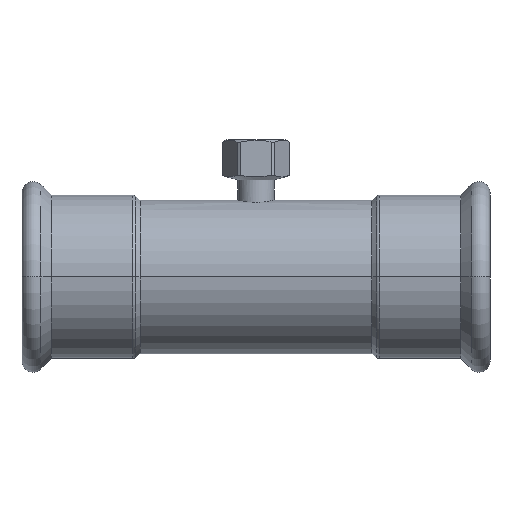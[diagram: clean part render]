
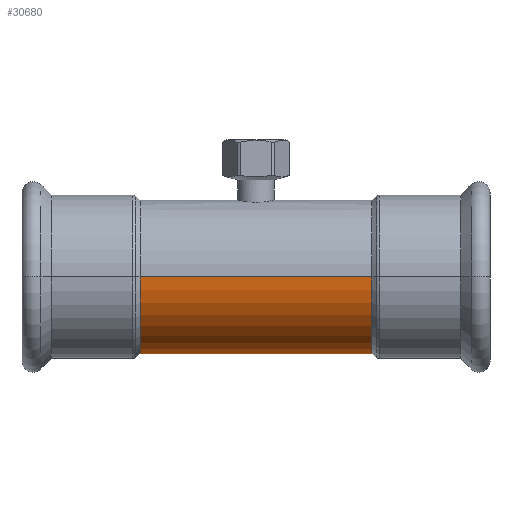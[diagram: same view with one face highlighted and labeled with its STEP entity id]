
A CAD part, front view. The second image highlights one B-rep face of the part: STEP entity #30680.
In plain terms, the highlighted cylindrical face has radius 38.05 mm (diameter 76.1 mm), a partial arc.
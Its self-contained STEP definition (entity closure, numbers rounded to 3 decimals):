
#7960=CARTESIAN_POINT('',(-38.693,90.409,0.));
#7970=DIRECTION('',(1.,0.,0.));
#7980=DIRECTION('',(0.,0.,1.));
#7990=AXIS2_PLACEMENT_3D('',#7960,#7970,#7980);
#8000=CYLINDRICAL_SURFACE('',#7990,38.05);
#30320=CARTESIAN_POINT('',(-38.693,90.409,-38.05));
#30330=DIRECTION('',(1.,0.,0.));
#30340=VECTOR('',#30330,1.);
#30350=LINE('',#30320,#30340);
#30360=CARTESIAN_POINT('',(-153.693,90.409,-38.05));
#30370=VERTEX_POINT('',#30360);
#30380=CARTESIAN_POINT('',(-38.693,90.409,-38.05));
#30390=VERTEX_POINT('',#30380);
#30400=EDGE_CURVE('',#30370,#30390,#30350,.T.);
#30410=ORIENTED_EDGE('',*,*,#30400,.F.);
#30420=CARTESIAN_POINT('',(-38.693,90.409,0.));
#30430=DIRECTION('',(1.,0.,0.));
#30440=DIRECTION('',(0.,0.,1.));
#30450=AXIS2_PLACEMENT_3D('',#30420,#30430,#30440);
#30460=CIRCLE('',#30450,38.05);
#30470=CARTESIAN_POINT('',(-38.693,90.409,38.05));
#30480=VERTEX_POINT('',#30470);
#30490=EDGE_CURVE('',#30390,#30480,#30460,.T.);
#30500=ORIENTED_EDGE('',*,*,#30490,.F.);
#30510=CARTESIAN_POINT('',(-38.693,90.409,38.05));
#30520=DIRECTION('',(1.,0.,0.));
#30530=VECTOR('',#30520,1.);
#30540=LINE('',#30510,#30530);
#30550=CARTESIAN_POINT('',(-153.693,90.409,38.05));
#30560=VERTEX_POINT('',#30550);
#30570=EDGE_CURVE('',#30560,#30480,#30540,.T.);
#30580=ORIENTED_EDGE('',*,*,#30570,.T.);
#30590=CARTESIAN_POINT('',(-153.693,90.409,0.));
#30600=DIRECTION('',(1.,0.,0.));
#30610=DIRECTION('',(0.,0.,1.));
#30620=AXIS2_PLACEMENT_3D('',#30590,#30600,#30610);
#30630=CIRCLE('',#30620,38.05);
#30640=EDGE_CURVE('',#30370,#30560,#30630,.T.);
#30650=ORIENTED_EDGE('',*,*,#30640,.T.);
#30660=EDGE_LOOP('',(#30650,#30580,#30500,#30410));
#30670=FACE_OUTER_BOUND('',#30660,.T.);
#30680=ADVANCED_FACE('',(#30670),#8000,.T.);
